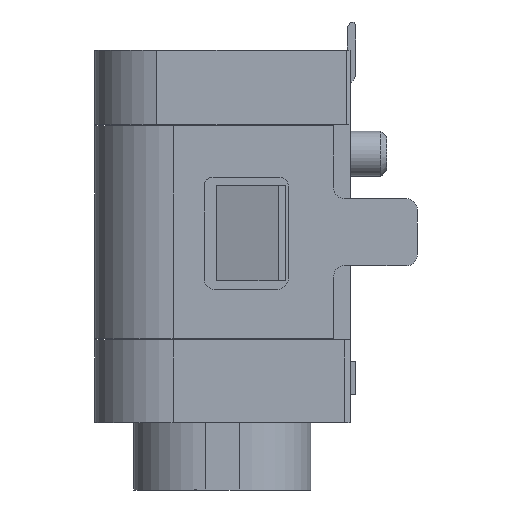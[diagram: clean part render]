
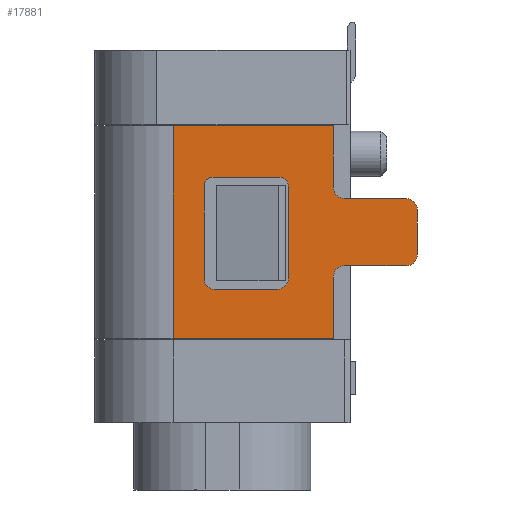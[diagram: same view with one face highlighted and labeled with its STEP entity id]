
A CAD part, left-side view. The second image highlights one B-rep face of the part: STEP entity #17881.
In plain terms, the highlighted planar face has unit normal (-1, 0, 0).
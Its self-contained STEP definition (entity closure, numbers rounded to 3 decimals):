
#4342=CARTESIAN_POINT('',(-5.,-2.185,-5.308));
#4343=DIRECTION('',(1.,0.,0.));
#4344=DIRECTION('',(0.,0.,-1.));
#4345=AXIS2_PLACEMENT_3D('',#4342,#4343,#4344);
#4351=DIRECTION('',(0.,0.,1.));
#4352=VECTOR('',#4351,1.1);
#4353=CARTESIAN_POINT('',(-5.,-1.985,-5.308));
#4354=LINE('',#4353,#4352);
#4367=DIRECTION('',(0.,0.,1.));
#4368=VECTOR('',#4367,1.1);
#4369=CARTESIAN_POINT('',(-5.,-1.985,-8.008));
#4370=LINE('',#4369,#4368);
#4371=CARTESIAN_POINT('',(-5.,0.136,-6.947));
#4372=DIRECTION('',(-1.,0.,0.));
#4373=DIRECTION('',(0.,1.,0.));
#4374=AXIS2_PLACEMENT_3D('',#4371,#4372,#4373);
#4376=CARTESIAN_POINT('',(-5.,-0.988,-6.932));
#4377=DIRECTION('',(-1.,0.,0.));
#4378=DIRECTION('',(0.,0.,-1.));
#4379=AXIS2_PLACEMENT_3D('',#4376,#4377,#4378);
#4381=CARTESIAN_POINT('',(-5.,-1.026,-5.285));
#4382=DIRECTION('',(-1.,0.,0.));
#4383=DIRECTION('',(0.,-1.,0.));
#4384=AXIS2_PLACEMENT_3D('',#4381,#4382,#4383);
#4386=CARTESIAN_POINT('',(-5.,0.18,-5.264));
#4387=DIRECTION('',(-1.,0.,0.));
#4388=DIRECTION('',(0.,0.,1.));
#4389=AXIS2_PLACEMENT_3D('',#4386,#4387,#4388);
#4391=CARTESIAN_POINT('',(-5.,-3.285,-5.708));
#4392=DIRECTION('',(-1.,0.,0.));
#4393=DIRECTION('',(0.,-1.,0.));
#4394=AXIS2_PLACEMENT_3D('',#4391,#4392,#4393);
#4396=DIRECTION('',(0.,0.,1.));
#4397=VECTOR('',#4396,0.8);
#4398=CARTESIAN_POINT('',(-5.,-3.485,-6.508));
#4399=LINE('',#4398,#4397);
#4400=CARTESIAN_POINT('',(-5.,-3.285,-6.508));
#4401=DIRECTION('',(-1.,0.,0.));
#4402=DIRECTION('',(0.,0.,-1.));
#4403=AXIS2_PLACEMENT_3D('',#4400,#4401,#4402);
#4405=DIRECTION('',(0.,-1.,0.));
#4406=VECTOR('',#4405,1.1);
#4407=CARTESIAN_POINT('',(-5.,-2.185,-6.708));
#4408=LINE('',#4407,#4406);
#4409=DIRECTION('',(0.,1.,0.));
#4410=VECTOR('',#4409,2.86);
#4411=CARTESIAN_POINT('',(-5.,-1.985,-8.008));
#4412=LINE('',#4411,#4410);
#4413=DIRECTION('',(0.,-1.,0.));
#4414=VECTOR('',#4413,2.86);
#4415=CARTESIAN_POINT('',(-5.,0.875,-4.208));
#4416=LINE('',#4415,#4414);
#4417=DIRECTION('',(0.,1.,0.));
#4418=VECTOR('',#4417,1.1);
#4419=CARTESIAN_POINT('',(-5.,-3.285,-5.508));
#4420=LINE('',#4419,#4418);
#4429=DIRECTION('',(0.,0.,1.));
#4430=VECTOR('',#4429,1.683);
#4431=CARTESIAN_POINT('',(-5.,0.317,-6.947));
#4432=LINE('',#4431,#4430);
#4441=DIRECTION('',(0.,-1.,0.));
#4442=VECTOR('',#4441,1.206);
#4443=CARTESIAN_POINT('',(-5.,0.18,-5.128));
#4444=LINE('',#4443,#4442);
#4453=DIRECTION('',(0.,0.,-1.));
#4454=VECTOR('',#4453,1.647);
#4455=CARTESIAN_POINT('',(-5.,-1.183,-5.285));
#4456=LINE('',#4455,#4454);
#4465=DIRECTION('',(0.,1.,0.));
#4466=VECTOR('',#4465,1.124);
#4467=CARTESIAN_POINT('',(-5.,-0.988,-7.128));
#4468=LINE('',#4467,#4466);
#4599=CARTESIAN_POINT('',(-5.,-2.185,-6.908));
#4600=DIRECTION('',(1.,0.,0.));
#4601=DIRECTION('',(0.,1.,0.));
#4602=AXIS2_PLACEMENT_3D('',#4599,#4600,#4601);
#5709=DIRECTION('',(0.,0.,-1.));
#5710=VECTOR('',#5709,3.8);
#5711=CARTESIAN_POINT('',(-5.,0.875,-4.208));
#5712=LINE('',#5711,#5710);
#10219=CARTESIAN_POINT('',(-5.,0.875,-4.208));
#10220=VERTEX_POINT('',#10219);
#10221=CARTESIAN_POINT('',(-5.,0.875,-8.008));
#10222=VERTEX_POINT('',#10221);
#10227=CARTESIAN_POINT('',(-5.,0.317,-6.947));
#10228=CARTESIAN_POINT('',(-5.,0.136,-7.128));
#10229=VERTEX_POINT('',#10227);
#10230=VERTEX_POINT('',#10228);
#10231=CARTESIAN_POINT('',(-5.,-0.988,-7.128));
#10232=VERTEX_POINT('',#10231);
#10233=CARTESIAN_POINT('',(-5.,-1.183,-6.932));
#10234=VERTEX_POINT('',#10233);
#10235=CARTESIAN_POINT('',(-5.,-1.183,-5.285));
#10236=VERTEX_POINT('',#10235);
#10237=CARTESIAN_POINT('',(-5.,-1.026,-5.128));
#10238=VERTEX_POINT('',#10237);
#10239=CARTESIAN_POINT('',(-5.,0.18,-5.128));
#10240=VERTEX_POINT('',#10239);
#10241=CARTESIAN_POINT('',(-5.,0.317,-5.264));
#10242=VERTEX_POINT('',#10241);
#11287=CARTESIAN_POINT('',(-5.,-1.985,-4.208));
#11289=VERTEX_POINT('',#11287);
#11291=CARTESIAN_POINT('',(-5.,-1.985,-8.008));
#11293=VERTEX_POINT('',#11291);
#11312=CARTESIAN_POINT('',(-5.,-1.985,-5.308));
#11314=VERTEX_POINT('',#11312);
#11317=CARTESIAN_POINT('',(-5.,-2.185,-5.508));
#11318=VERTEX_POINT('',#11317);
#11323=CARTESIAN_POINT('',(-5.,-1.985,-6.908));
#11324=VERTEX_POINT('',#11323);
#11325=CARTESIAN_POINT('',(-5.,-2.185,-6.708));
#11326=VERTEX_POINT('',#11325);
#11347=CARTESIAN_POINT('',(-5.,-3.485,-5.708));
#11348=VERTEX_POINT('',#11347);
#11349=CARTESIAN_POINT('',(-5.,-3.285,-5.508));
#11350=VERTEX_POINT('',#11349);
#11355=CARTESIAN_POINT('',(-5.,-3.285,-6.708));
#11356=VERTEX_POINT('',#11355);
#11357=CARTESIAN_POINT('',(-5.,-3.485,-6.508));
#11358=VERTEX_POINT('',#11357);
#17836=CARTESIAN_POINT('',(-5.,-2.285,-9.508));
#17837=DIRECTION('',(-1.,0.,0.));
#17838=DIRECTION('',(0.,1.,0.));
#17839=AXIS2_PLACEMENT_3D('',#17836,#17837,#17838);
#17840=PLANE('',#17839);
#17842=ORIENTED_EDGE('',*,*,#17841,.F.);
#17844=ORIENTED_EDGE('',*,*,#17843,.F.);
#17846=ORIENTED_EDGE('',*,*,#17845,.F.);
#17848=ORIENTED_EDGE('',*,*,#17847,.F.);
#17850=ORIENTED_EDGE('',*,*,#17849,.F.);
#17851=ORIENTED_EDGE('',*,*,#17831,.F.);
#17853=ORIENTED_EDGE('',*,*,#17852,.T.);
#17855=ORIENTED_EDGE('',*,*,#17854,.F.);
#17856=ORIENTED_EDGE('',*,*,#15534,.T.);
#17857=ORIENTED_EDGE('',*,*,#17814,.F.);
#17858=ORIENTED_EDGE('',*,*,#17803,.F.);
#17860=ORIENTED_EDGE('',*,*,#17859,.F.);
#17861=EDGE_LOOP('',(#17842,#17844,#17846,#17848,#17850,#17851,#17853,#17855,
#17856,#17857,#17858,#17860));
#17862=FACE_OUTER_BOUND('',#17861,.F.);
#17864=ORIENTED_EDGE('',*,*,#17863,.T.);
#17866=ORIENTED_EDGE('',*,*,#17865,.F.);
#17868=ORIENTED_EDGE('',*,*,#17867,.T.);
#17870=ORIENTED_EDGE('',*,*,#17869,.F.);
#17872=ORIENTED_EDGE('',*,*,#17871,.T.);
#17874=ORIENTED_EDGE('',*,*,#17873,.F.);
#17876=ORIENTED_EDGE('',*,*,#17875,.T.);
#17878=ORIENTED_EDGE('',*,*,#17877,.F.);
#17879=EDGE_LOOP('',(#17864,#17866,#17868,#17870,#17872,#17874,#17876,#17878));
#17880=FACE_BOUND('',#17879,.F.);
#4346=CIRCLE('',#4345,0.2);
#4375=CIRCLE('',#4374,0.181);
#4380=CIRCLE('',#4379,0.195);
#4385=CIRCLE('',#4384,0.158);
#4390=CIRCLE('',#4389,0.137);
#4395=CIRCLE('',#4394,0.2);
#4404=CIRCLE('',#4403,0.2);
#4603=CIRCLE('',#4602,0.2);
#15534=EDGE_CURVE('',#10220,#11289,#4416,.T.);
#17803=EDGE_CURVE('',#11318,#11314,#4346,.T.);
#17814=EDGE_CURVE('',#11314,#11289,#4354,.T.);
#17831=EDGE_CURVE('',#11293,#11324,#4370,.T.);
#17841=EDGE_CURVE('',#11348,#11350,#4395,.T.);
#17843=EDGE_CURVE('',#11358,#11348,#4399,.T.);
#17845=EDGE_CURVE('',#11356,#11358,#4404,.T.);
#17847=EDGE_CURVE('',#11326,#11356,#4408,.T.);
#17849=EDGE_CURVE('',#11324,#11326,#4603,.T.);
#17852=EDGE_CURVE('',#11293,#10222,#4412,.T.);
#17854=EDGE_CURVE('',#10220,#10222,#5712,.T.);
#17859=EDGE_CURVE('',#11350,#11318,#4420,.T.);
#17863=EDGE_CURVE('',#10229,#10230,#4375,.T.);
#17865=EDGE_CURVE('',#10232,#10230,#4468,.T.);
#17867=EDGE_CURVE('',#10232,#10234,#4380,.T.);
#17869=EDGE_CURVE('',#10236,#10234,#4456,.T.);
#17871=EDGE_CURVE('',#10236,#10238,#4385,.T.);
#17873=EDGE_CURVE('',#10240,#10238,#4444,.T.);
#17875=EDGE_CURVE('',#10240,#10242,#4390,.T.);
#17877=EDGE_CURVE('',#10229,#10242,#4432,.T.);
#17881=ADVANCED_FACE('',(#17862,#17880),#17840,.T.);
